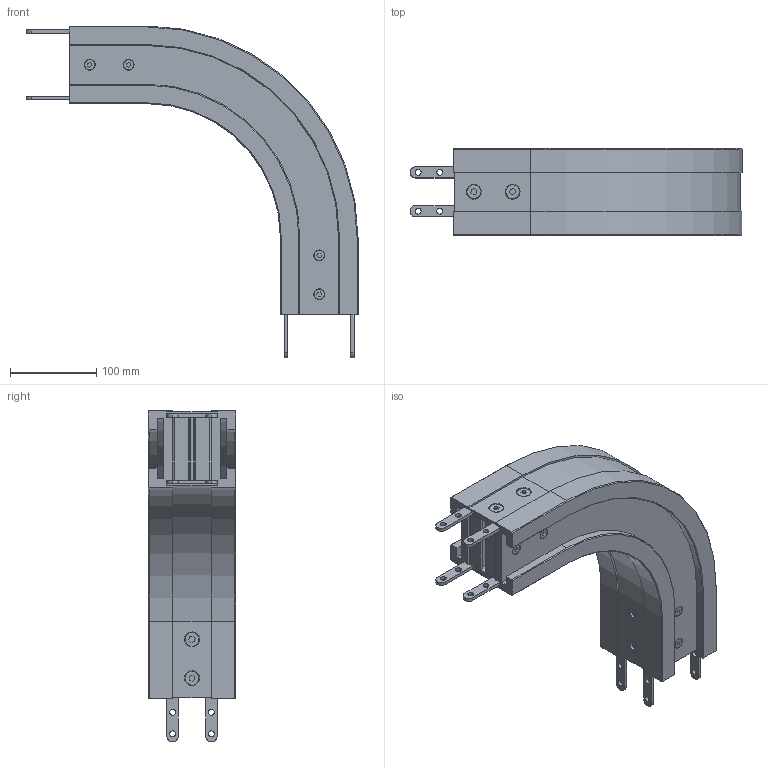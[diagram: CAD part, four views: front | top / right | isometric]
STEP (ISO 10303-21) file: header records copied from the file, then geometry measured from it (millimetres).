
FILE_DESCRIPTION (( 'STEP AP214' ), '1' );
FILE_NAME ('2000.325.490.STEP', '2021-02-11T09:39:34', ( '' ), ( '' ), 'SwSTEP 2.0', 'SolidWorks 2018', '' );
FILE_SCHEMA (( 'AUTOMOTIVE_DESIGN' ));
Length unit declared in the file: millimetre
Products named in the file (9): 2000.325.432; 2000.325.428_2000.1200.490; VITI TSEI UNI 5933 INOX_0620UNI5933A2; 2000.325.490; 2000.325.429_Default<A macchina>; 2000.001.402; 084.302.000 DADI ALUSIC 13x13-1_084.302.008; VITI TSEI UNI 5933 INOX_0820UNI5933A2; 2000.325.431
Assembly tree (34 placements, depth 2):
  2000.325.490
    2000.325.428_2000.1200.490  x2
    2000.325.429_Default<A macchina>  x2
    2000.001.402  x4
    2000.325.432
    2000.325.431
    VITI TSEI UNI 5933 INOX_0820UNI5933A2  x8
    VITI TSEI UNI 5933 INOX_0620UNI5933A2  x8
    084.302.000 DADI ALUSIC 13x13-1_084.302.008  x8
Bounding box: 385 x 101 x 385 mm (x, y, z)
Volume: 1851927.2 mm3; surface area: 679912.8 mm2
Topology: 42 solids, 42 shells, 1198 faces, 3070 edges, 1972 vertices
Faces by surface type: plane 632, cylinder 398, cone 136, torus 32
Entity records: 13652 total; most frequent: CARTESIAN_POINT 2373, DIRECTION 2321, ORIENTED_EDGE 2198, EDGE_CURVE 1099, AXIS2_PLACEMENT_3D 794, VECTOR 733, LINE 733, VERTEX_POINT 714
